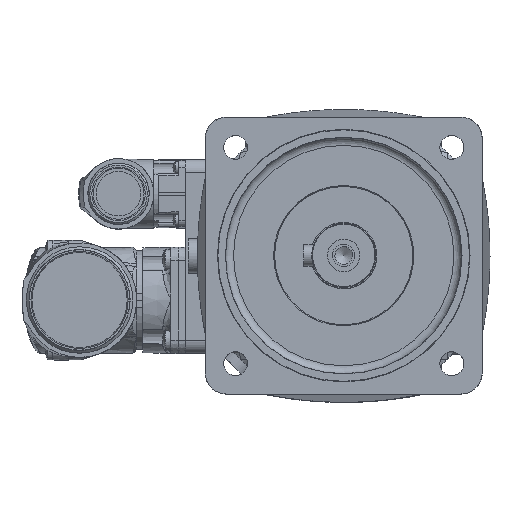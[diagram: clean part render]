
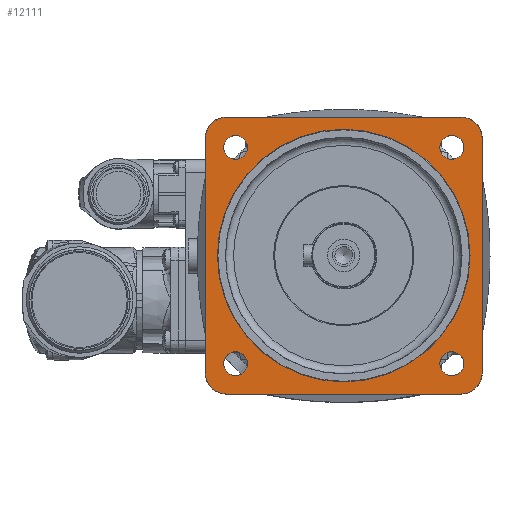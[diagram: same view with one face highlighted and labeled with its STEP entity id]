
A CAD part, top view. The second image highlights one B-rep face of the part: STEP entity #12111.
In plain terms, the highlighted planar face has unit normal (0, 0, 1).
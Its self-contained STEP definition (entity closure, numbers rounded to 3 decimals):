
#141=FACE_BOUND('',#1937,.T.);
#142=FACE_BOUND('',#1938,.T.);
#143=FACE_BOUND('',#1939,.T.);
#144=FACE_BOUND('',#1940,.T.);
#145=FACE_BOUND('',#1941,.T.);
#1254=FACE_OUTER_BOUND('',#1936,.T.);
#1936=EDGE_LOOP('',(#8484,#8485,#8486,#8487,#8488,#8489,#8490,#8491));
#1937=EDGE_LOOP('',(#8492));
#1938=EDGE_LOOP('',(#8493));
#1939=EDGE_LOOP('',(#8494));
#1940=EDGE_LOOP('',(#8495));
#1941=EDGE_LOOP('',(#8496));
#2680=LINE('',#18127,#3517);
#2681=LINE('',#18131,#3518);
#2682=LINE('',#18135,#3519);
#2683=LINE('',#18139,#3520);
#3517=VECTOR('',#14430,10.);
#3518=VECTOR('',#14433,10.);
#3519=VECTOR('',#14436,10.);
#3520=VECTOR('',#14439,10.);
#4362=CIRCLE('',#13009,47.5);
#4363=CIRCLE('',#13011,8.052);
#4364=CIRCLE('',#13012,8.052);
#4365=CIRCLE('',#13013,8.052);
#4366=CIRCLE('',#13014,8.052);
#4367=CIRCLE('',#13015,4.5);
#4368=CIRCLE('',#13016,4.5);
#4369=CIRCLE('',#13017,4.5);
#4370=CIRCLE('',#13018,4.5);
#5331=VERTEX_POINT('',#18121);
#5332=VERTEX_POINT('',#18125);
#5333=VERTEX_POINT('',#18126);
#5334=VERTEX_POINT('',#18128);
#5335=VERTEX_POINT('',#18130);
#5336=VERTEX_POINT('',#18132);
#5337=VERTEX_POINT('',#18134);
#5338=VERTEX_POINT('',#18136);
#5339=VERTEX_POINT('',#18138);
#5340=VERTEX_POINT('',#18141);
#5341=VERTEX_POINT('',#18143);
#5342=VERTEX_POINT('',#18145);
#5343=VERTEX_POINT('',#18147);
#6567=EDGE_CURVE('',#5331,#5331,#4362,.T.);
#6568=EDGE_CURVE('',#5332,#5333,#2680,.T.);
#6569=EDGE_CURVE('',#5334,#5332,#4363,.T.);
#6570=EDGE_CURVE('',#5335,#5334,#2681,.T.);
#6571=EDGE_CURVE('',#5336,#5335,#4364,.T.);
#6572=EDGE_CURVE('',#5337,#5336,#2682,.T.);
#6573=EDGE_CURVE('',#5338,#5337,#4365,.T.);
#6574=EDGE_CURVE('',#5339,#5338,#2683,.T.);
#6575=EDGE_CURVE('',#5333,#5339,#4366,.T.);
#6576=EDGE_CURVE('',#5340,#5340,#4367,.T.);
#6577=EDGE_CURVE('',#5341,#5341,#4368,.T.);
#6578=EDGE_CURVE('',#5342,#5342,#4369,.T.);
#6579=EDGE_CURVE('',#5343,#5343,#4370,.T.);
#8484=ORIENTED_EDGE('',*,*,#6568,.F.);
#8485=ORIENTED_EDGE('',*,*,#6569,.F.);
#8486=ORIENTED_EDGE('',*,*,#6570,.F.);
#8487=ORIENTED_EDGE('',*,*,#6571,.F.);
#8488=ORIENTED_EDGE('',*,*,#6572,.F.);
#8489=ORIENTED_EDGE('',*,*,#6573,.F.);
#8490=ORIENTED_EDGE('',*,*,#6574,.F.);
#8491=ORIENTED_EDGE('',*,*,#6575,.F.);
#8492=ORIENTED_EDGE('',*,*,#6567,.T.);
#8493=ORIENTED_EDGE('',*,*,#6576,.T.);
#8494=ORIENTED_EDGE('',*,*,#6577,.T.);
#8495=ORIENTED_EDGE('',*,*,#6578,.T.);
#8496=ORIENTED_EDGE('',*,*,#6579,.T.);
#11776=PLANE('',#13010);
#12111=ADVANCED_FACE('',(#1254,#141,#142,#143,#144,#145),#11776,.F.);
#13009=AXIS2_PLACEMENT_3D('',#18123,#14426,#14427);
#13010=AXIS2_PLACEMENT_3D('',#18124,#14428,#14429);
#13011=AXIS2_PLACEMENT_3D('',#18129,#14431,#14432);
#13012=AXIS2_PLACEMENT_3D('',#18133,#14434,#14435);
#13013=AXIS2_PLACEMENT_3D('',#18137,#14437,#14438);
#13014=AXIS2_PLACEMENT_3D('',#18140,#14440,#14441);
#13015=AXIS2_PLACEMENT_3D('',#18142,#14442,#14443);
#13016=AXIS2_PLACEMENT_3D('',#18144,#14444,#14445);
#13017=AXIS2_PLACEMENT_3D('',#18146,#14446,#14447);
#13018=AXIS2_PLACEMENT_3D('',#18148,#14448,#14449);
#14426=DIRECTION('center_axis',(0.,0.,
-1.));
#14427=DIRECTION('ref_axis',(-1.,0.,0.));
#14428=DIRECTION('center_axis',(0.,0.,
-1.));
#14429=DIRECTION('ref_axis',(-1.,0.,0.));
#14430=DIRECTION('',(1.,0.,0.));
#14431=DIRECTION('center_axis',(0.,0.,
-1.));
#14432=DIRECTION('ref_axis',(0.,1.,0.));
#14433=DIRECTION('',(0.,1.,0.));
#14434=DIRECTION('center_axis',(0.,0.,
-1.));
#14435=DIRECTION('ref_axis',(-1.,0.,0.));
#14436=DIRECTION('',(-1.,0.,0.));
#14437=DIRECTION('center_axis',(0.,0.,
-1.));
#14438=DIRECTION('ref_axis',(0.,-1.,0.));
#14439=DIRECTION('',(0.,-1.,0.));
#14440=DIRECTION('center_axis',(0.,0.,
-1.));
#14441=DIRECTION('ref_axis',(1.,0.,0.));
#14442=DIRECTION('center_axis',(0.,0.,
-1.));
#14443=DIRECTION('ref_axis',(-1.,0.,0.));
#14444=DIRECTION('center_axis',(0.,0.,
-1.));
#14445=DIRECTION('ref_axis',(-1.,0.,0.));
#14446=DIRECTION('center_axis',(0.,0.,
-1.));
#14447=DIRECTION('ref_axis',(-1.,0.,0.));
#14448=DIRECTION('center_axis',(0.,0.,
-1.));
#14449=DIRECTION('ref_axis',(-1.,0.,0.));
#18121=CARTESIAN_POINT('',(47.5,0.,0.));
#18123=CARTESIAN_POINT('Origin',(0.,0.,
0.));
#18124=CARTESIAN_POINT('Origin',(0.,0.,
0.));
#18125=CARTESIAN_POINT('',(-44.,52.052,0.));
#18126=CARTESIAN_POINT('',(44.,52.052,0.));
#18127=CARTESIAN_POINT('',(44.,52.052,0.));
#18128=CARTESIAN_POINT('',(-52.052,44.,0.));
#18129=CARTESIAN_POINT('Origin',(-44.,44.,0.));
#18130=CARTESIAN_POINT('',(-52.052,-44.,0.));
#18131=CARTESIAN_POINT('',(-52.052,44.,0.));
#18132=CARTESIAN_POINT('',(-44.,-52.052,0.));
#18133=CARTESIAN_POINT('Origin',(-44.,-44.,0.));
#18134=CARTESIAN_POINT('',(44.,-52.052,0.));
#18135=CARTESIAN_POINT('',(-44.,-52.052,0.));
#18136=CARTESIAN_POINT('',(52.052,-44.,0.));
#18137=CARTESIAN_POINT('Origin',(44.,-44.,0.));
#18138=CARTESIAN_POINT('',(52.052,44.,0.));
#18139=CARTESIAN_POINT('',(52.052,-44.,0.));
#18140=CARTESIAN_POINT('Origin',(44.,44.,0.));
#18141=CARTESIAN_POINT('',(45.159,40.659,0.));
#18142=CARTESIAN_POINT('Origin',(40.659,40.659,0.));
#18143=CARTESIAN_POINT('',(-36.159,40.659,0.));
#18144=CARTESIAN_POINT('Origin',(-40.659,40.659,0.));
#18145=CARTESIAN_POINT('',(-36.159,-40.659,0.));
#18146=CARTESIAN_POINT('Origin',(-40.659,-40.659,0.));
#18147=CARTESIAN_POINT('',(45.159,-40.659,0.));
#18148=CARTESIAN_POINT('Origin',(40.659,-40.659,0.));
